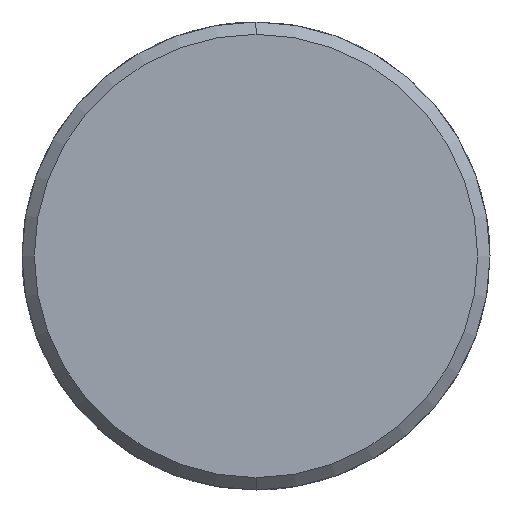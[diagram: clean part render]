
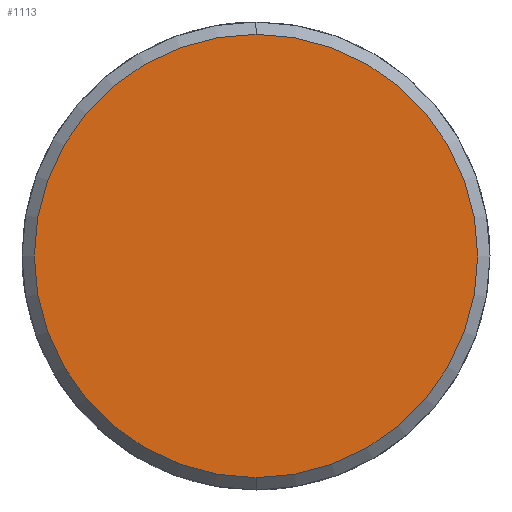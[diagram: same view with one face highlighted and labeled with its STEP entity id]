
A CAD part, left-side view. The second image highlights one B-rep face of the part: STEP entity #1113.
In plain terms, the highlighted planar face has unit normal (-1, 0, 0).
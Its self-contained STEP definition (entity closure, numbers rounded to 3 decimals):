
#1045=CARTESIAN_POINT('Vertex',(-7.,0.,-18.)) ;
#1048=CARTESIAN_POINT('Axis2P3D Location',(-7.,0.,0.)) ;
#1052=CARTESIAN_POINT('Vertex',(-7.,18.,0.)) ;
#1055=CARTESIAN_POINT('Axis2P3D Location',(-7.,0.,0.)) ;
#1059=CARTESIAN_POINT('Vertex',(-7.,0.,18.)) ;
#1081=CARTESIAN_POINT('Axis2P3D Location',(-7.,0.,0.)) ;
#1085=CARTESIAN_POINT('Vertex',(-7.,-18.,0.)) ;
#1088=CARTESIAN_POINT('Axis2P3D Location',(-7.,0.,0.)) ;
#1102=CARTESIAN_POINT('Axis2P3D Location',(-7.,0.,0.)) ;
#1049=DIRECTION('Axis2P3D Direction',(1.,0.,-0.)) ;
#1056=DIRECTION('Axis2P3D Direction',(1.,0.,-0.)) ;
#1082=DIRECTION('Axis2P3D Direction',(1.,0.,-0.)) ;
#1089=DIRECTION('Axis2P3D Direction',(1.,0.,-0.)) ;
#1103=DIRECTION('Axis2P3D Direction',(1.,0.,-0.)) ;
#1104=DIRECTION('Axis2P3D XDirection',(-0.,0.,-1.)) ;
#1050=AXIS2_PLACEMENT_3D('Circle Axis2P3D',#1048,#1049,$) ;
#1057=AXIS2_PLACEMENT_3D('Circle Axis2P3D',#1055,#1056,$) ;
#1083=AXIS2_PLACEMENT_3D('Circle Axis2P3D',#1081,#1082,$) ;
#1090=AXIS2_PLACEMENT_3D('Circle Axis2P3D',#1088,#1089,$) ;
#1105=AXIS2_PLACEMENT_3D('Plane Axis2P3D',#1102,#1103,#1104) ;
#1108=ORIENTED_EDGE('',*,*,#1054,.F.) ;
#1109=ORIENTED_EDGE('',*,*,#1092,.F.) ;
#1110=ORIENTED_EDGE('',*,*,#1087,.F.) ;
#1111=ORIENTED_EDGE('',*,*,#1061,.F.) ;
#1113=ADVANCED_FACE('351-25X26X80',(#1112),#1106,.F.) ;
#1051=CIRCLE('generated circle',#1050,18.) ;
#1058=CIRCLE('generated circle',#1057,18.) ;
#1084=CIRCLE('generated circle',#1083,18.) ;
#1091=CIRCLE('generated circle',#1090,18.) ;
#1054=EDGE_CURVE('',#1046,#1053,#1051,.T.) ;
#1061=EDGE_CURVE('',#1053,#1060,#1058,.T.) ;
#1087=EDGE_CURVE('',#1060,#1086,#1084,.T.) ;
#1092=EDGE_CURVE('',#1086,#1046,#1091,.T.) ;
#1107=EDGE_LOOP('',(#1108,#1109,#1110,#1111)) ;
#1112=FACE_OUTER_BOUND('',#1107,.T.) ;
#1106=PLANE('Plane',#1105) ;
#1046=VERTEX_POINT('',#1045) ;
#1053=VERTEX_POINT('',#1052) ;
#1060=VERTEX_POINT('',#1059) ;
#1086=VERTEX_POINT('',#1085) ;
